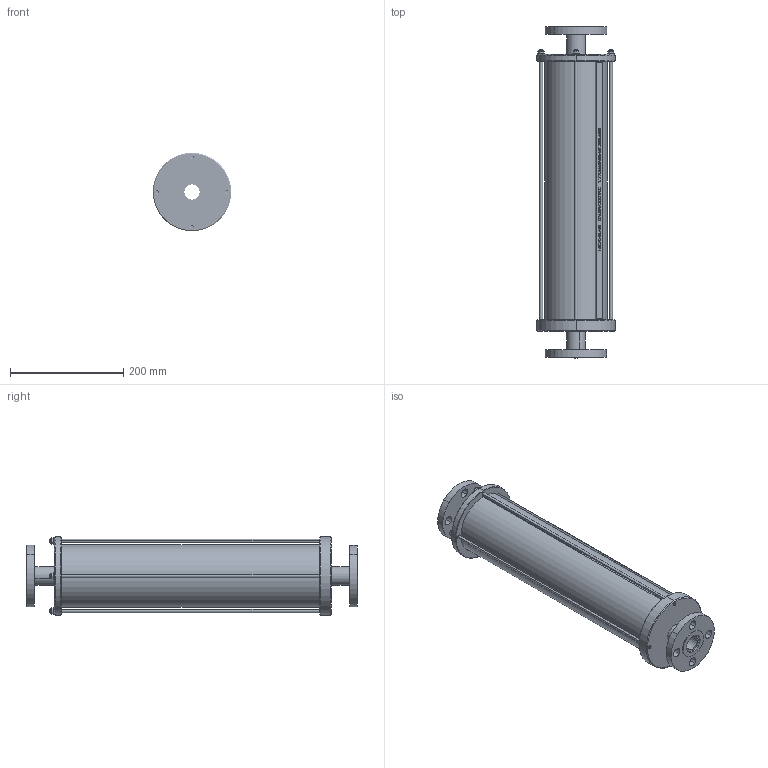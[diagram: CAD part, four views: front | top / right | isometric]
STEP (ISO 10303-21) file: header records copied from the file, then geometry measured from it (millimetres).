
FILE_DESCRIPTION (( 'STEP AP214' ), '1' );
FILE_NAME ('3.0LTR-C-44-34.STEP', '2025-11-05T15:52:47', ( '' ), ( '' ), 'SwSTEP 2.0', 'SolidWorks 2024', '' );
FILE_SCHEMA (( 'AUTOMOTIVE_DESIGN' ));
Length unit declared in the file: millimetre
Products named in the file (1): 3.0LTR-C-44-34
Bounding box: 138 x 585 x 138 mm (x, y, z)
Volume: 1495534.8 mm3; surface area: 522859.1 mm2
Topology: 20 solids, 20 shells, 1522 faces, 3954 edges, 2552 vertices
Faces by surface type: cylinder 540, plane 463, bspline 343, cone 88, sphere 72, torus 16
Entity records: 108936 total; most frequent: CARTESIAN_POINT 59284, ORIENTED_EDGE 7908, DIRECTION 5292, EDGE_CURVE 3954, VERTEX_POINT 2552, VECTOR 1832, LINE 1832, AXIS2_PLACEMENT_3D 1730
